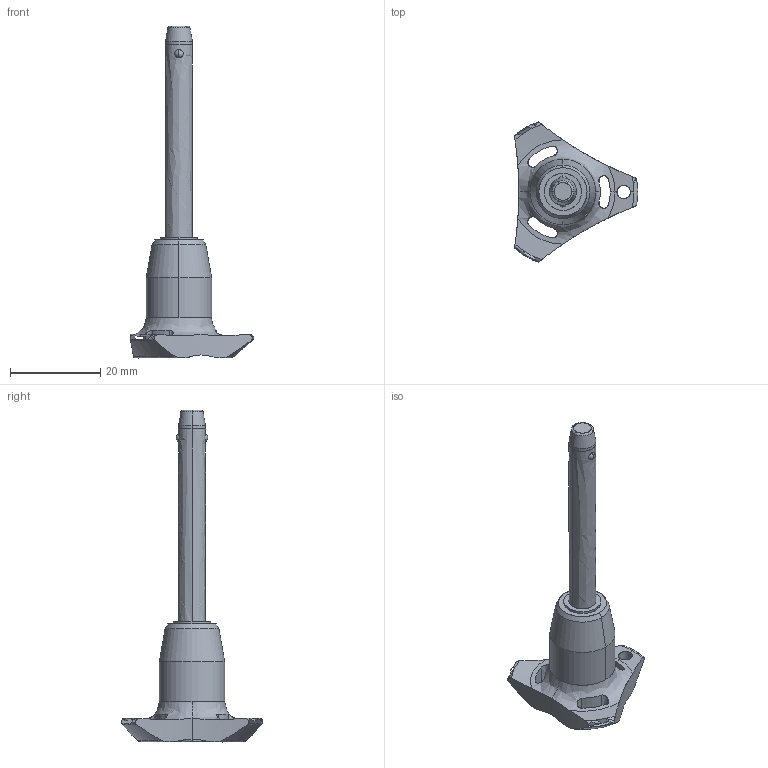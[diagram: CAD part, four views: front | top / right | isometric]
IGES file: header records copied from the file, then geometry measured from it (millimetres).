
Start section: SolidWorks IGES file using analytic representation for surfaces
Global section: file name: C:\Users\ianosborn\Desktop\33060_v2\33060.BK_v2_20240910_IGES\33060.W0828.igs; native system: SolidWorks 2019; preprocessor: SolidWorks 2019; author: IanOsborn; date: 240910.200746; units: millimetre
Bounding box: 27.4 x 31.31 x 73.7 mm (x, y, z)
Surface area: 3307 mm2 (no closed solid volume)
Topology: 0 solids, 0 shells, 69 faces, 1327 edges, 1308 vertices
Faces by surface type: revolution 52, bspline 17
